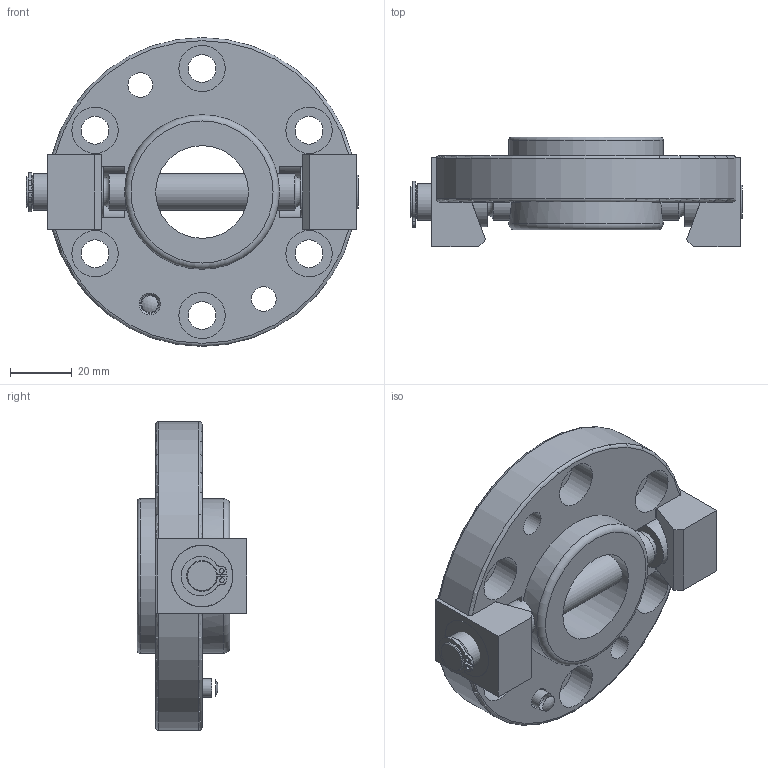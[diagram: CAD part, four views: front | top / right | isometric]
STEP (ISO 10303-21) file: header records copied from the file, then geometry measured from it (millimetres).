
FILE_DESCRIPTION(/* description */ (''),/* implementation_level */ '2;1');
FILE_NAME(/* name */ '\\dc01\daten\CAD\Standard\Daten\3D-Datenbank\SWA\4 - 3D-CAD-Daten SWA 050-160\SWA100\step-Daten\G-SWA100-2O.stp',/* time_stamp */ '2020-01-30T08:25:18+01:00',/* author */ ('ysplieth'),/* organization */ (''),/* preprocessor_version */ 'ST-DEVELOPER v17',/* originating_system */ 'Autodesk Inventor 2018',/* authorisation */ '');
FILE_SCHEMA (('AUTOMOTIVE_DESIGN { 1 0 10303 214 3 1 1 }'));
Length unit declared in the file: millimetre
Products named in the file (1): Bauteil3
Bounding box: 107.5 x 35.5 x 100 mm (x, y, z)
Volume: 128231.6 mm3; surface area: 43640.7 mm2
Topology: 9 solids, 9 shells, 152 faces, 420 edges, 298 vertices
Faces by surface type: plane 74, cylinder 58, cone 10, torus 8, sphere 2
Full cylindrical faces by diameter (mm): 1.5 x2, 4 x1, 4.917 x1, 5.5 x1, 6 x3, 8 x2, 9 x6, 9.6 x1, 10 x2, 10.106 x2, 11.6 x2, 12 x4, 12.2 x2, 15 x6, 16 x4, 19.9 x2, 20 x2, 30 x1, 50 x2
Entity records: 5473 total; most frequent: CARTESIAN_POINT 1096, DIRECTION 908, ORIENTED_EDGE 838, EDGE_CURVE 419, AXIS2_PLACEMENT_3D 363, VERTEX_POINT 298, EDGE_LOOP 203, CIRCLE 202
